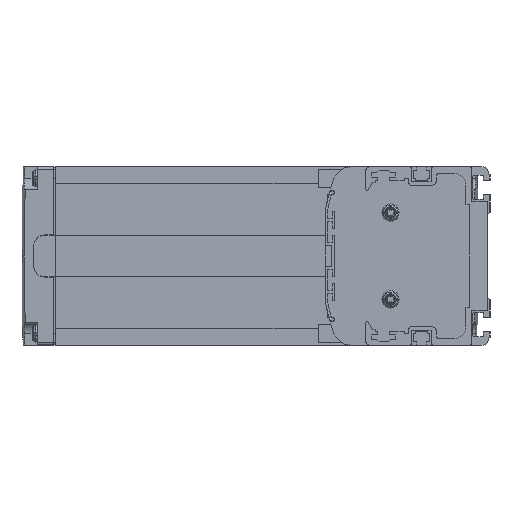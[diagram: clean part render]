
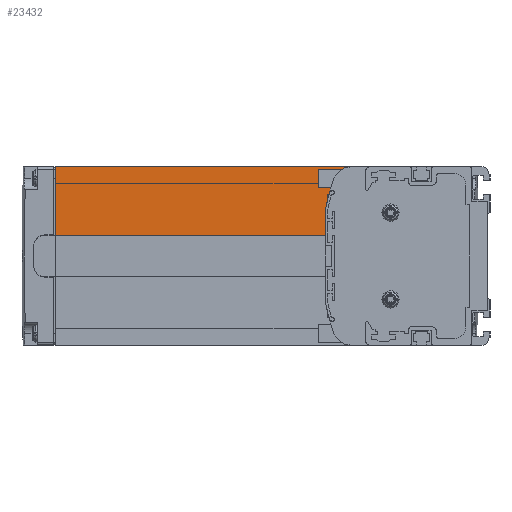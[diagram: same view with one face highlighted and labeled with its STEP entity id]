
A CAD part, left-side view. The second image highlights one B-rep face of the part: STEP entity #23432.
In plain terms, the highlighted planar face has unit normal (-1, 0, 0).
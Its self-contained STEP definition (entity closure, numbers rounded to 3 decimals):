
#1275=DIRECTION('',(0.,-1.,0.));
#1276=VECTOR('',#1275,0.571);
#1277=CARTESIAN_POINT('',(3.,71.,27.));
#1278=LINE('',#1277,#1276);
#1287=DIRECTION('',(0.,0.,1.));
#1288=VECTOR('',#1287,2.224);
#1289=CARTESIAN_POINT('',(3.,71.,24.776));
#1290=LINE('',#1289,#1288);
#1307=DIRECTION('',(0.,0.,-1.));
#1308=VECTOR('',#1307,29.9);
#1309=CARTESIAN_POINT('',(3.,190.,39.));
#1310=LINE('',#1309,#1308);
#4987=DIRECTION('',(0.,-1.,0.));
#4988=VECTOR('',#4987,129.245);
#4989=CARTESIAN_POINT('',(3.,190.,39.));
#4990=LINE('',#4989,#4988);
#6261=DIRECTION('',(0.,0.,-1.));
#6262=VECTOR('',#6261,10.723);
#6263=CARTESIAN_POINT('',(3.,72.,19.823));
#6264=LINE('',#6263,#6262);
#6277=CARTESIAN_POINT('',(3.,70.,19.823));
#6278=DIRECTION('',(1.,0.,0.));
#6279=DIRECTION('',(0.,1.,0.));
#6280=AXIS2_PLACEMENT_3D('',#6277,#6278,#6279);
#6286=CARTESIAN_POINT('',(3.,-6.765,6.));
#6287=DIRECTION('',(1.,0.,0.));
#6288=DIRECTION('',(0.,0.984,0.177));
#6289=AXIS2_PLACEMENT_3D('',#6286,#6287,#6288);
#6291=CARTESIAN_POINT('',(3.,-6.765,6.));
#6292=DIRECTION('',(1.,0.,0.));
#6293=DIRECTION('',(0.,0.965,0.263));
#6294=AXIS2_PLACEMENT_3D('',#6291,#6292,#6293);
#6300=CARTESIAN_POINT('',(3.,60.755,31.));
#6301=DIRECTION('',(-1.,0.,0.));
#6302=DIRECTION('',(0.,0.,1.));
#6303=AXIS2_PLACEMENT_3D('',#6300,#6301,#6302);
#10961=DIRECTION('',(0.,-1.,0.));
#10962=VECTOR('',#10961,118.);
#10963=CARTESIAN_POINT('',(3.,190.,9.1));
#10964=LINE('',#10963,#10962);
#17365=CARTESIAN_POINT('',(3.,190.,39.));
#17366=VERTEX_POINT('',#17365);
#17367=CARTESIAN_POINT('',(3.,190.,9.1));
#17368=VERTEX_POINT('',#17367);
#17397=CARTESIAN_POINT('',(3.,71.,27.));
#17399=VERTEX_POINT('',#17397);
#21293=CARTESIAN_POINT('',(3.,70.429,27.));
#21295=VERTEX_POINT('',#21293);
#21302=CARTESIAN_POINT('',(3.,71.,24.776));
#21304=VERTEX_POINT('',#21302);
#21312=CARTESIAN_POINT('',(3.,72.,9.1));
#21313=VERTEX_POINT('',#21312);
#21322=CARTESIAN_POINT('',(3.,72.,19.823));
#21323=CARTESIAN_POINT('',(3.,71.968,20.177));
#21324=VERTEX_POINT('',#21322);
#21325=VERTEX_POINT('',#21323);
#21326=CARTESIAN_POINT('',(3.,68.257,33.778));
#21327=VERTEX_POINT('',#21326);
#21328=CARTESIAN_POINT('',(3.,60.755,39.));
#21329=VERTEX_POINT('',#21328);
#23407=CARTESIAN_POINT('',(3.,105.,24.05));
#23408=DIRECTION('',(1.,0.,0.));
#23409=DIRECTION('',(0.,0.,1.));
#23410=AXIS2_PLACEMENT_3D('',#23407,#23408,#23409);
#23411=PLANE('',#23410);
#23413=ORIENTED_EDGE('',*,*,#23412,.F.);
#23415=ORIENTED_EDGE('',*,*,#23414,.T.);
#23417=ORIENTED_EDGE('',*,*,#23416,.F.);
#23419=ORIENTED_EDGE('',*,*,#23418,.F.);
#23421=ORIENTED_EDGE('',*,*,#23420,.T.);
#23423=ORIENTED_EDGE('',*,*,#23422,.T.);
#23425=ORIENTED_EDGE('',*,*,#23424,.F.);
#23426=ORIENTED_EDGE('',*,*,#23356,.F.);
#23427=ORIENTED_EDGE('',*,*,#23374,.F.);
#23429=ORIENTED_EDGE('',*,*,#23428,.F.);
#23430=EDGE_LOOP('',(#23413,#23415,#23417,#23419,#23421,#23423,#23425,#23426,
#23427,#23429));
#23431=FACE_OUTER_BOUND('',#23430,.F.);
#23432=ADVANCED_FACE('',(#23431),#23411,.F.);
#6281=CIRCLE('',#6280,2.);
#6290=CIRCLE('',#6289,80.);
#6295=CIRCLE('',#6294,80.);
#6304=CIRCLE('',#6303,8.);
#23356=EDGE_CURVE('',#17399,#21295,#1278,.T.);
#23374=EDGE_CURVE('',#21304,#17399,#1290,.T.);
#23412=EDGE_CURVE('',#21324,#21325,#6281,.T.);
#23414=EDGE_CURVE('',#21324,#21313,#6264,.T.);
#23416=EDGE_CURVE('',#17368,#21313,#10964,.T.);
#23418=EDGE_CURVE('',#17366,#17368,#1310,.T.);
#23420=EDGE_CURVE('',#17366,#21329,#4990,.T.);
#23422=EDGE_CURVE('',#21329,#21327,#6304,.T.);
#23424=EDGE_CURVE('',#21295,#21327,#6295,.T.);
#23428=EDGE_CURVE('',#21325,#21304,#6290,.T.);
